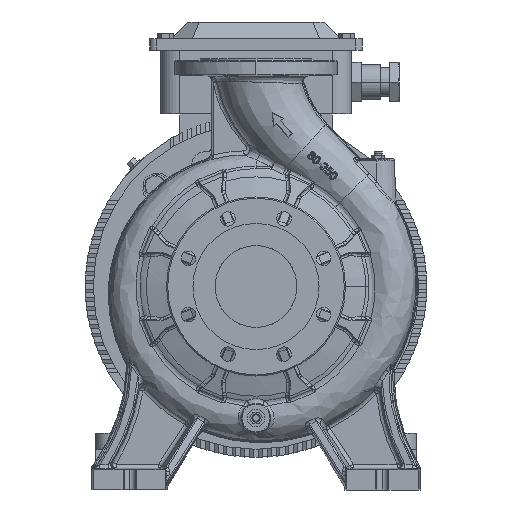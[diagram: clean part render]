
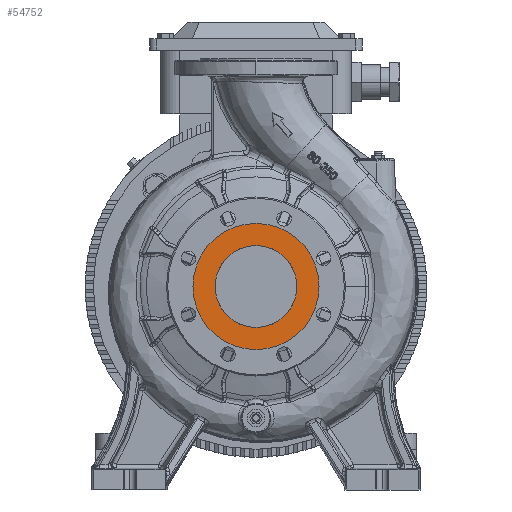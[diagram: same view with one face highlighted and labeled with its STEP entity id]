
A CAD part, left-side view. The second image highlights one B-rep face of the part: STEP entity #54752.
In plain terms, the highlighted planar face has unit normal (-1, 0, 0).
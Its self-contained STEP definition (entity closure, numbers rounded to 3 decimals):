
#428 = CIRCLE ( 'NONE', #32683, 77.5 ) ;
#11022 = VERTEX_POINT ( 'NONE', #127540 ) ;
#15280 = EDGE_LOOP ( 'NONE', ( #63160, #100676 ) ) ;
#20516 = EDGE_CURVE ( 'NONE', #40751, #11022, #109745, .T. ) ;
#21484 = CARTESIAN_POINT ( 'NONE',  ( 190.931, 57.5, -88.35 ) ) ;
#23629 = EDGE_LOOP ( 'NONE', ( #115009, #36752 ) ) ;
#32683 = AXIS2_PLACEMENT_3D ( 'NONE', #95010, #103792, #126028 ) ;
#36603 = CARTESIAN_POINT ( 'NONE',  ( 190.931, 57.5, -88.35 ) ) ;
#36752 = ORIENTED_EDGE ( 'NONE', *, *, #66889, .F. ) ;
#40751 = VERTEX_POINT ( 'NONE', #59587 ) ;
#42897 = AXIS2_PLACEMENT_3D ( 'NONE', #75504, #105800, #86231 ) ;
#43047 = VERTEX_POINT ( 'NONE', #81214 ) ;
#43856 = FACE_BOUND ( 'NONE', #15280, .T. ) ;
#49605 = DIRECTION ( 'NONE',  ( 0., -1., 0. ) ) ;
#54752 = ADVANCED_FACE ( 'NONE', ( #43856, #128024 ), #104483, .T. ) ;
#59587 = CARTESIAN_POINT ( 'NONE',  ( 190.931, 7.232, -88.35 ) ) ;
#61539 = CARTESIAN_POINT ( 'NONE',  ( 190.931, -20., -88.35 ) ) ;
#63160 = ORIENTED_EDGE ( 'NONE', *, *, #128062, .T. ) ;
#66889 = EDGE_CURVE ( 'NONE', #84902, #43047, #70388, .T. ) ;
#69844 = CARTESIAN_POINT ( 'NONE',  ( 190.931, 57.5, -88.35 ) ) ;
#70388 = CIRCLE ( 'NONE', #85351, 77.5 ) ;
#75504 = CARTESIAN_POINT ( 'NONE',  ( 190.931, 205.925, -175.194 ) ) ;
#81214 = CARTESIAN_POINT ( 'NONE',  ( 190.931, 135., -88.35 ) ) ;
#84902 = VERTEX_POINT ( 'NONE', #61539 ) ;
#85233 = EDGE_CURVE ( 'NONE', #43047, #84902, #428, .T. ) ;
#85351 = AXIS2_PLACEMENT_3D ( 'NONE', #36603, #97917, #128905 ) ;
#86231 = DIRECTION ( 'NONE',  ( 0., 0., 1. ) ) ;
#93570 = DIRECTION ( 'NONE',  ( 1., 0., 0. ) ) ;
#95010 = CARTESIAN_POINT ( 'NONE',  ( 190.931, 57.5, -88.35 ) ) ;
#97917 = DIRECTION ( 'NONE',  ( 1., 0., 0. ) ) ;
#100676 = ORIENTED_EDGE ( 'NONE', *, *, #20516, .T. ) ;
#103792 = DIRECTION ( 'NONE',  ( 1., 0., 0. ) ) ;
#104346 = DIRECTION ( 'NONE',  ( 0., -1., 0. ) ) ;
#104483 = PLANE ( 'NONE',  #42897 ) ;
#105800 = DIRECTION ( 'NONE',  ( -1., 0., 0. ) ) ;
#109745 = CIRCLE ( 'NONE', #122734, 50.268 ) ;
#110935 = DIRECTION ( 'NONE',  ( 1., 0., 0. ) ) ;
#114508 = CIRCLE ( 'NONE', #118840, 50.268 ) ;
#115009 = ORIENTED_EDGE ( 'NONE', *, *, #85233, .F. ) ;
#118840 = AXIS2_PLACEMENT_3D ( 'NONE', #21484, #93570, #104346 ) ;
#122734 = AXIS2_PLACEMENT_3D ( 'NONE', #69844, #110935, #49605 ) ;
#126028 = DIRECTION ( 'NONE',  ( 0., -1., 0. ) ) ;
#127540 = CARTESIAN_POINT ( 'NONE',  ( 190.931, 107.768, -88.35 ) ) ;
#128024 = FACE_OUTER_BOUND ( 'NONE', #23629, .T. ) ;
#128062 = EDGE_CURVE ( 'NONE', #11022, #40751, #114508, .T. ) ;
#128905 = DIRECTION ( 'NONE',  ( 0., -1., 0. ) ) ;
